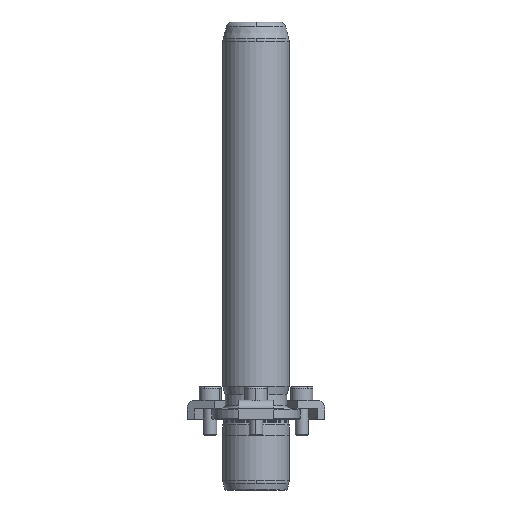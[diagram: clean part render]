
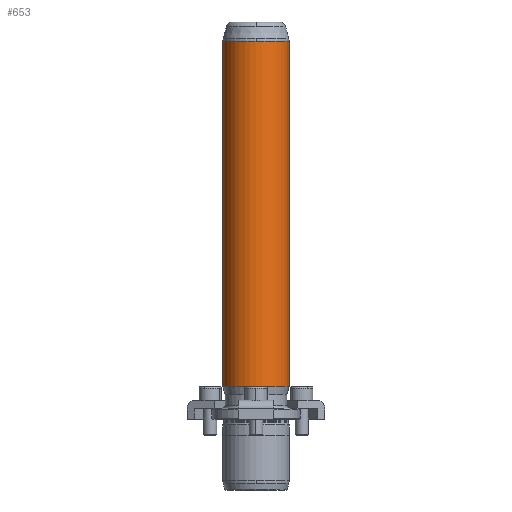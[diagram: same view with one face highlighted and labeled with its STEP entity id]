
A CAD part, front view. The second image highlights one B-rep face of the part: STEP entity #653.
In plain terms, the highlighted cylindrical face has radius 15 mm (diameter 30 mm), a partial arc.
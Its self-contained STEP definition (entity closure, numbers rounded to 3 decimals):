
#566=CARTESIAN_POINT('',(0.0,-15.,171.342));
#567=VERTEX_POINT('',#566);
#594=CARTESIAN_POINT('',(-15.0,0.,171.342));
#595=VERTEX_POINT('',#594);
#603=CARTESIAN_POINT('',(0.0,0.,171.342));
#604=DIRECTION('',(0.0,0.0,1.0));
#605=DIRECTION('',(1.0,0.0,0.0));
#606=AXIS2_PLACEMENT_3D('',#603,#604,#605);
#607=CIRCLE('',#606,15.0);
#608=EDGE_CURVE('',#595,#567,#607,.T.);
#613=CARTESIAN_POINT('',(0.0,0.,93.171));
#614=DIRECTION('',(0.0,0.,1.0));
#615=DIRECTION('',(1.0,0.0,0.0));
#616=AXIS2_PLACEMENT_3D('',#613,#614,#615);
#617=CYLINDRICAL_SURFACE('',#616,15.0);
#618=CARTESIAN_POINT('',(15.0,0.,171.342));
#619=VERTEX_POINT('',#618);
#620=CARTESIAN_POINT('',(15.0,0.,15.0));
#621=VERTEX_POINT('',#620);
#622=CARTESIAN_POINT('',(15.0,0.,171.342));
#623=DIRECTION('',(0.0,0.0,-1.0));
#624=VECTOR('',#623,156.342);
#625=LINE('',#622,#624);
#626=EDGE_CURVE('',#619,#621,#625,.T.);
#627=ORIENTED_EDGE('',*,*,#626,.F.);
#628=CARTESIAN_POINT('',(0.0,0.,171.342));
#629=DIRECTION('',(0.0,0.0,1.0));
#630=DIRECTION('',(1.0,0.0,0.0));
#631=AXIS2_PLACEMENT_3D('',#628,#629,#630);
#632=CIRCLE('',#631,15.0);
#633=EDGE_CURVE('',#567,#619,#632,.T.);
#634=ORIENTED_EDGE('',*,*,#633,.F.);
#635=ORIENTED_EDGE('',*,*,#608,.F.);
#636=CARTESIAN_POINT('',(-15.0,0.,15.0));
#637=VERTEX_POINT('',#636);
#638=CARTESIAN_POINT('',(-15.0,0.,171.342));
#639=DIRECTION('',(0.0,0.0,-1.0));
#640=VECTOR('',#639,156.342);
#641=LINE('',#638,#640);
#642=EDGE_CURVE('',#595,#637,#641,.T.);
#643=ORIENTED_EDGE('',*,*,#642,.T.);
#644=CARTESIAN_POINT('',(0.0,0.,15.0));
#645=DIRECTION('',(0.0,0.0,1.0));
#646=DIRECTION('',(1.0,0.0,0.0));
#647=AXIS2_PLACEMENT_3D('',#644,#645,#646);
#648=CIRCLE('',#647,15.0);
#649=EDGE_CURVE('',#637,#621,#648,.T.);
#650=ORIENTED_EDGE('',*,*,#649,.T.);
#651=EDGE_LOOP('',(#627,#634,#635,#643,#650));
#652=FACE_OUTER_BOUND('',#651,.T.);
#653=ADVANCED_FACE('',(#652),#617,.T.);
